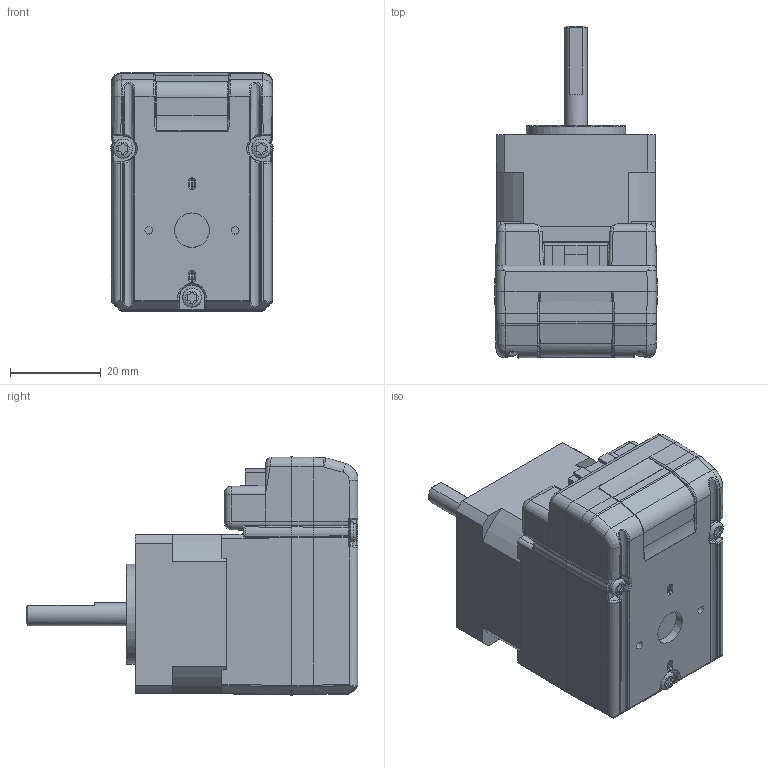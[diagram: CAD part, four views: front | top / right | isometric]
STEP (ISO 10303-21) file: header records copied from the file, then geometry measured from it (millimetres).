
FILE_DESCRIPTION(('MDI 14, Plus, 12 Pin JST'),'1');
FILE_NAME('MDI 14, Plus, 12 Pin JST.stp','2009-03-09T19:04:04',('P. Bordua'),('Intelligent Motion Systems, Inc.'),'Spatial Interop R18','Kubotek KeyCreator V8.0.1 (11344)','KC');
FILE_SCHEMA(('automotive_design'));
Length unit declared in the file: inch
Products named in the file (1): MDI 14, Plus, 12 Pin JST[1]
Bounding box: 35.75 x 73.02 x 52.38 mm (x, y, z)
Volume: 74141.1 mm3; surface area: 12866.1 mm2
Topology: 1 solids, 1 shells, 605 faces, 1757 edges, 1178 vertices
Faces by surface type: bspline 190, cylinder 185, plane 165, cone 47, torus 18
Full cylindrical faces by diameter (mm): 0.635 x12, 2.5 x4, 4.242 x3, 5 x1, 7.087 x1, 22 x1
Entity records: 57281 total; most frequent: CARTESIAN_POINT 27562, ORIENTED_EDGE 3404, PRESENTATION_STYLE_ASSIGNMENT 2914, COLOUR_RGB 2914, STYLED_ITEM 2308, CURVE_STYLE 2308, DRAUGHTING_PRE_DEFINED_CURVE_FONT 2308, DIRECTION 2161
